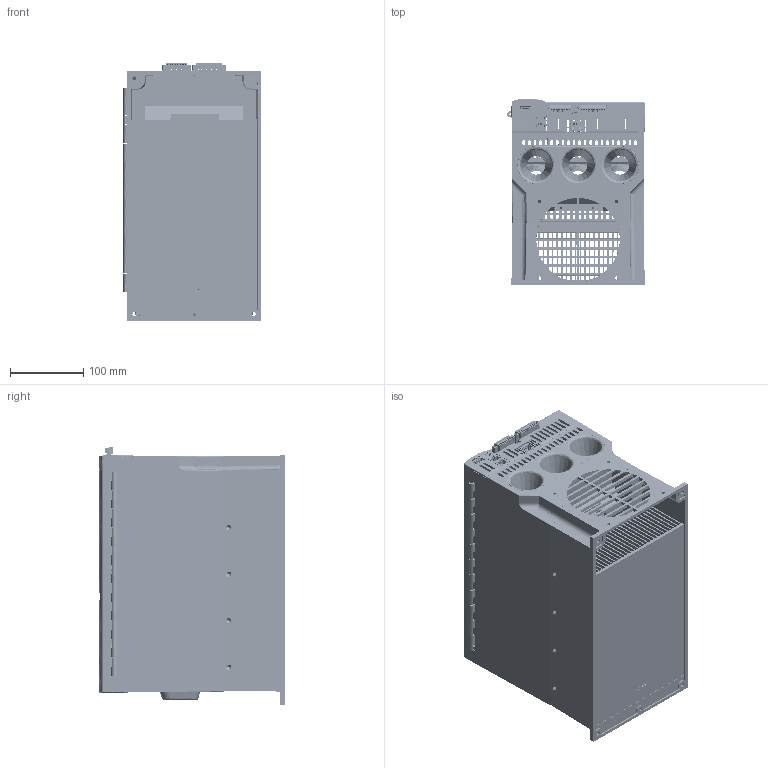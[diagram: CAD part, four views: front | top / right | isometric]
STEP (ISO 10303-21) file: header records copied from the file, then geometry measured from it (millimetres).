
FILE_DESCRIPTION(/* description */ (''),/* implementation_level */ '2;1');
FILE_NAME(/* name */ 'S:\Data\3D_drawings\working\fusion micro large frame\cad block\website\3 PHASE 320-400.stp',/* time_stamp */ '2016-10-13T13:10:43-05:00',/* author */ ('PaulD'),/* organization */ (''),/* preprocessor_version */ 'ST-DEVELOPER v16.5',/* originating_system */ 'Autodesk Inventor 2017',/* authorisation */ '');
FILE_SCHEMA (('AUTOMOTIVE_DESIGN { 1 0 10303 214 3 1 1 }'));
Products named in the file (44): 3001359; 3001358; 3001364b; 3001365b_with cut out; 1001392d; R53; R51; 564716688; Extruded_5; P5; USB_TYPE_B_MICRO_FCI_10118194-000LF; COMPOUND_1; SOLID_1; P1; FCI_10_PIN_HEADER_20020111-c10; FCI_10_PIN_HEADER_20020111-c10_1; FCI_10_PIN_CONNECTOR_20020000-c10; P4; HDMI_TYPE_A_FCI_10029449-001LF; COMPOUND_4; SOLID_4; P2; FCI_8_PIN_HEADER_20020111-c08; FCI_8_PIN_HEADER_20020111-c08_1; FCI_8_PIN_CONNECTOR_20020000-c08; P3; FCI_10118075; U20; 564720016; Extruded_54; 1001401a depopulated; P2_1; Xport_04_housing; plastic_house; xport_04_base_sub_assembly; plastic_base; short_pins; long_pins; wiper_pins; led1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
Assembly tree (59 placements, depth 1):
  3001359
Bounding box: 187.76 x 254.03 x 351.41 mm (x, y, z)
Volume: 2502267.1 mm3; surface area: 1830485.3 mm2
Topology: 84 solids, 3197 shells, 11033 faces, 38197 edges, 30766 vertices
Faces by surface type: plane 8470, cylinder 1823, cone 449, bspline 152, torus 131, sphere 8
Full cylindrical faces by diameter (mm): 0.356 x1, 0.532 x1, 0.559 x8, 0.584 x8, 0.594 x1, 0.611 x1, 1.118 x1, 1.8 x4, 2.5 x4, 2.6 x4, 2.845 x21, 2.95 x18, 3.9 x4, 3.962 x18, 4.14 x1, 4.2 x8, 4.928 x2
Entity records: 478785 total; most frequent: CARTESIAN_POINT 149874, DIRECTION 62442, ORIENTED_EDGE 57287, EDGE_CURVE 36844, VERTEX_POINT 30034, LINE 29944, VECTOR 29944, AXIS2_PLACEMENT_3D 16249
